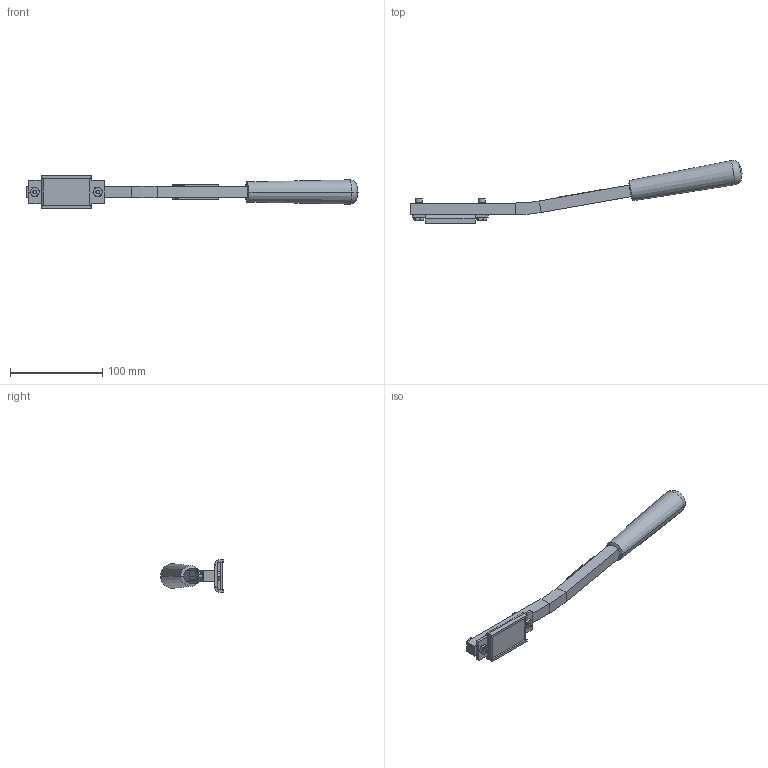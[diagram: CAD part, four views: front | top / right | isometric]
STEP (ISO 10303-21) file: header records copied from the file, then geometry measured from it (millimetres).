
FILE_DESCRIPTION (( 'STEP AP203' ), '1' );
FILE_NAME ('IMPL2104.STEP', '2018-08-14T15:03:44', ( '' ), ( '' ), 'SwSTEP 2.0', 'SolidWorks 2015', '' );
FILE_SCHEMA (( 'CONFIG_CONTROL_DESIGN' ));
Length unit declared in the file: inch
Products named in the file (1): IMPL2104
Bounding box: 359.8 x 68.38 x 34.92 mm (x, y, z)
Volume: 99835.7 mm3; surface area: 50974.8 mm2
Topology: 10 solids, 10 shells, 1421 faces, 3504 edges, 2225 vertices
Faces by surface type: plane 743, bspline 322, cone 186, cylinder 152, torus 14, sphere 4
Entity records: 61141 total; most frequent: CARTESIAN_POINT 29433, ORIENTED_EDGE 7008, DIRECTION 5470, EDGE_CURVE 3504, LINE 2402, VECTOR 2402, VERTEX_POINT 2225, EDGE_LOOP 1559
